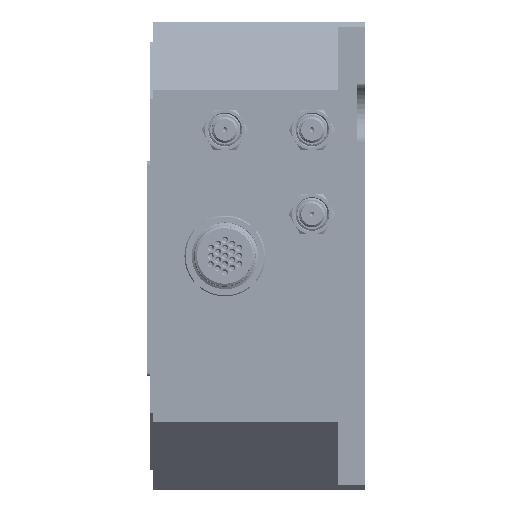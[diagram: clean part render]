
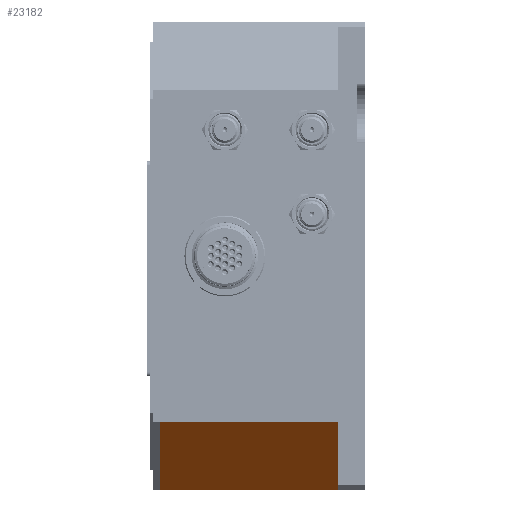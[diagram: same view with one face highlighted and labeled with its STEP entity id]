
A CAD part, left-side view. The second image highlights one B-rep face of the part: STEP entity #23182.
In plain terms, the highlighted planar face has unit normal (-0.707, 0, -0.707).
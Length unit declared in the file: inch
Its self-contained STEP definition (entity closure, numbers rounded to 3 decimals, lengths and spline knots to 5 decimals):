
#4589 = ORIENTED_EDGE ( 'NONE', *, *, #19328, .T. ) ;
#9138 = FACE_OUTER_BOUND ( 'NONE', #155361, .T. ) ;
#10045 = PLANE ( 'NONE',  #52829 ) ;
#12158 = CARTESIAN_POINT ( 'NONE',  ( -3.625, 0.25, -1.5386 ) ) ;
#13071 = DIRECTION ( 'NONE',  ( 0.707, 0., -0.707 ) ) ;
#15301 = VERTEX_POINT ( 'NONE', #83890 ) ;
#15524 = LINE ( 'NONE', #101505, #16563 ) ;
#16563 = VECTOR ( 'NONE', #73761, 39.37008 ) ;
#18776 = VERTEX_POINT ( 'NONE', #51848 ) ;
#19328 = EDGE_CURVE ( 'NONE', #86811, #15301, #15524, .T. ) ;
#23182 = ADVANCED_FACE ( 'NONE', ( #9138 ), #10045, .F. ) ;
#27512 = VERTEX_POINT ( 'NONE', #49258 ) ;
#39209 = EDGE_CURVE ( 'NONE', #27512, #15301, #131624, .T. ) ;
#44731 = CARTESIAN_POINT ( 'NONE',  ( -3.625, 1.9, -1.5386 ) ) ;
#49258 = CARTESIAN_POINT ( 'NONE',  ( -2.9886, 0.25, -2.175 ) ) ;
#51207 = ORIENTED_EDGE ( 'NONE', *, *, #39209, .F. ) ;
#51848 = CARTESIAN_POINT ( 'NONE',  ( -3.625, 0.25, -1.5386 ) ) ;
#52829 = AXIS2_PLACEMENT_3D ( 'NONE', #63686, #134074, #95083 ) ;
#60310 = CARTESIAN_POINT ( 'NONE',  ( -2.9886, 0.25, -2.175 ) ) ;
#63686 = CARTESIAN_POINT ( 'NONE',  ( -3.625, 0.25, -1.5386 ) ) ;
#68361 = VECTOR ( 'NONE', #13071, 39.37008 ) ;
#72303 = VECTOR ( 'NONE', #87531, 39.37008 ) ;
#72764 = LINE ( 'NONE', #115345, #72303 ) ;
#73761 = DIRECTION ( 'NONE',  ( 0.707, 0., -0.707 ) ) ;
#83890 = CARTESIAN_POINT ( 'NONE',  ( -2.9886, 1.9, -2.175 ) ) ;
#86811 = VERTEX_POINT ( 'NONE', #44731 ) ;
#87531 = DIRECTION ( 'NONE',  ( 0., 1., 0. ) ) ;
#95083 = DIRECTION ( 'NONE',  ( 0.707, 0., -0.707 ) ) ;
#101505 = CARTESIAN_POINT ( 'NONE',  ( -3.625, 1.9, -1.5386 ) ) ;
#107562 = ORIENTED_EDGE ( 'NONE', *, *, #124750, .F. ) ;
#112753 = VECTOR ( 'NONE', #173153, 39.37008 ) ;
#115345 = CARTESIAN_POINT ( 'NONE',  ( -3.625, 0.25, -1.5386 ) ) ;
#124750 = EDGE_CURVE ( 'NONE', #18776, #27512, #154533, .T. ) ;
#131624 = LINE ( 'NONE', #60310, #112753 ) ;
#134074 = DIRECTION ( 'NONE',  ( 0.707, 0., 0.707 ) ) ;
#135745 = EDGE_CURVE ( 'NONE', #18776, #86811, #72764, .T. ) ;
#154533 = LINE ( 'NONE', #12158, #68361 ) ;
#155361 = EDGE_LOOP ( 'NONE', ( #4589, #51207, #107562, #156569 ) ) ;
#156569 = ORIENTED_EDGE ( 'NONE', *, *, #135745, .T. ) ;
#173153 = DIRECTION ( 'NONE',  ( 0., 1., 0. ) ) ;
